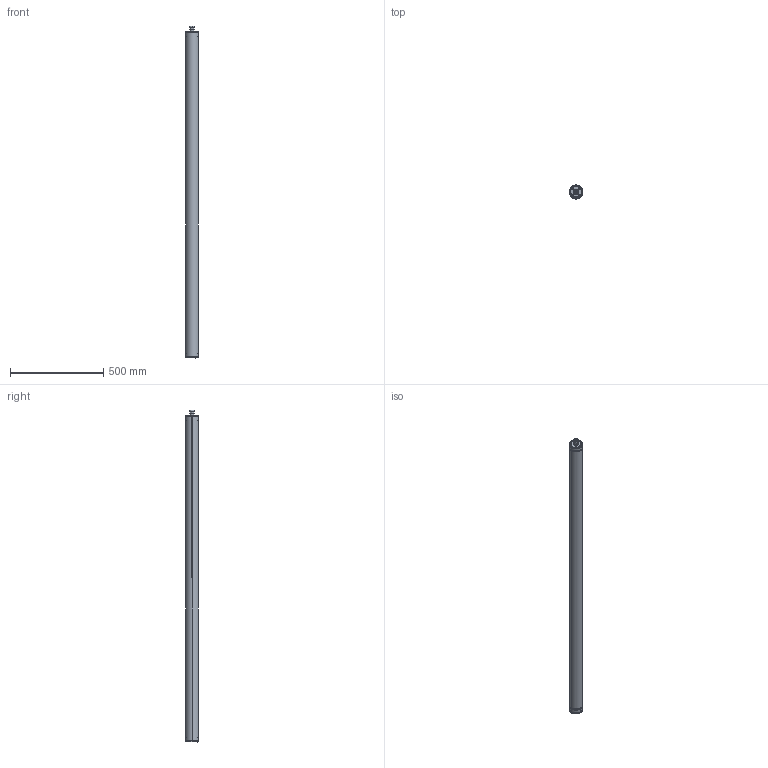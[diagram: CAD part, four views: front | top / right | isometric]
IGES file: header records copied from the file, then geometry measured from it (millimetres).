
Start section: SolidWorks IGES file using analytic representation for surfaces
Global section: file name: C:\Users\JoãoSantos\Desktop\02_3D.2D\01_2020\02_Linear\02_Tubo\02_Tubo_70\Normal\TUBO_70_1752.IGS; native system: SolidWorks 2020; preprocessor: SolidWorks 2020; author: JoãoSantos; date: 201020.180232; units: millimetre
Bounding box: 73 x 73 x 1784.7 mm (x, y, z)
Surface area: 837020.7 mm2 (no closed solid volume)
Topology: 0 solids, 0 shells, 1608 faces, 15019 edges, 14853 vertices
Faces by surface type: revolution 888, bspline 720
